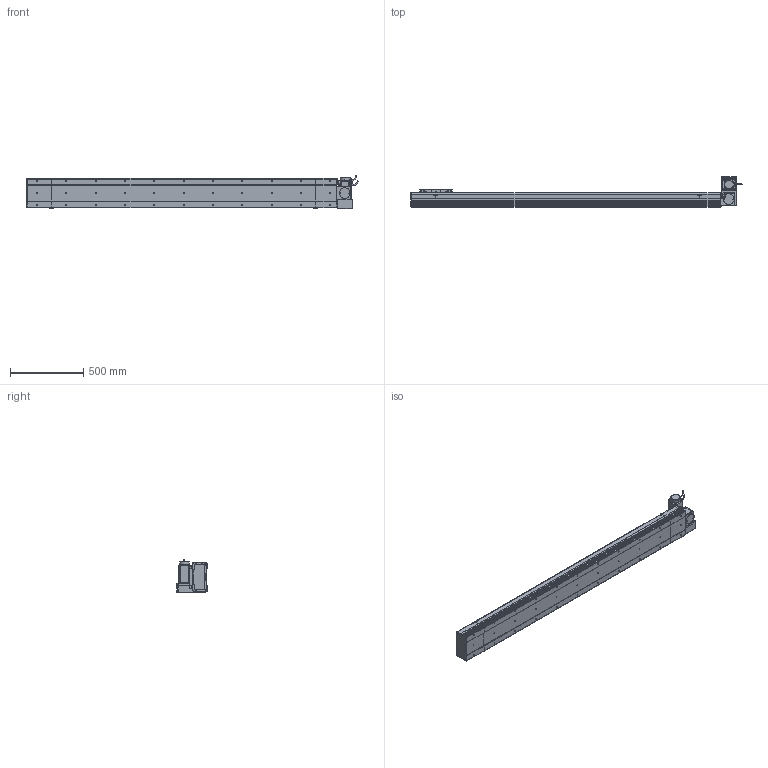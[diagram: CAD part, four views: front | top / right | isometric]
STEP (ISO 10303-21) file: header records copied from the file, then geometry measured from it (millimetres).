
FILE_DESCRIPTION (( 'STEP AP214' ), '1' );
FILE_NAME ('D20 CBH RT S1800.STEP', '2010-06-30T09:44:12', ( 'Conseil Régional Haute-Normandie' ), ( 'Conseil Régional Haute-Normandie' ), 'SwSTEP 2.0', 'SolidWorks 2010', '' );
FILE_SCHEMA (( 'AUTOMOTIVE_DESIGN' ));
Length unit declared in the file: millimetre
Products named in the file (31): vis M5 L15_Default; ecrou_Default; Chariot D20_Default; Plaque De Serrage D20_Default; Support Chariot D20_Default; Plaque de Bout Tail D20_Default; Couvercle_Default; Corp Tail D20_Default; Corp D20 S1800_Default; Rondelle Cache D20 RT_Default; vis M5 L47_Default; Cache Support Moteur RT_Default; Tail D20_Default; Couvercle S1800_Default; Corp S1800_Default; Glissiere_Default; Head RT_Default; D20 CBH RT S1800; Plaque de Bout Head D20 RT_Default; Couvercle RT_Default; Corp Tail D20 RT_Default; Moteur motionking 90BLDC125A-640; Support moteur RT_Default; Plaque De Serrage D20 RT_Default; codeur 90BLDC125-640; corps 90BLDC125A-640; avant 90BLDC125A-640; vis M5 L30_Default; Conecteur_Default; Conecteur2_Default
Assembly tree (68 placements, depth 4):
  D20 CBH RT S1800
    Corp D20 S1800_Default
      Couvercle S1800_Default
      Corp S1800_Default
    Chariot D20_Default
      vis M5 L15_Default  x8
      Chariot D20_Default
      Glissiere_Default
      Support Chariot D20_Default
    Tail D20_Default
      vis M5 L15_Default  x6
      Couvercle_Default
      Plaque De Serrage D20_Default
      Plaque de Bout Tail D20_Default
      Corp Tail D20_Default
    Head RT_Default
      vis M5 L15_Default  x14
      Rondelle Cache D20 RT_Default  x3
      Moteur motionking 90BLDC125A-640
        avant 90BLDC125A-640
        Conecteur2_Default
        Conecteur_Default
        codeur 90BLDC125-640
        corps 90BLDC125A-640
      Plaque De Serrage D20 RT_Default
      vis M5 L30_Default  x4
      Support moteur RT_Default
      Plaque de Bout Head D20 RT_Default
      vis M5 L47_Default  x4
      ecrou_Default  x4
      Cache Support Moteur RT_Default
      Corp Tail D20 RT_Default
      Couvercle RT_Default
Bounding box: 2264.45 x 206.5 x 229.7 mm (x, y, z)
Volume: 15661153.2 mm3; surface area: 3075915.3 mm2
Topology: 105 solids, 105 shells, 3808 faces, 9480 edges, 6154 vertices
Faces by surface type: plane 2125, bspline 806, cylinder 706, torus 95, cone 72, sphere 4
Entity records: 159182 total; most frequent: CARTESIAN_POINT 82274, ORIENTED_EDGE 15228, DIRECTION 11566, EDGE_CURVE 7614, VERTEX_POINT 5038, VECTOR 4930, LINE 4930, AXIS2_PLACEMENT_3D 3318
